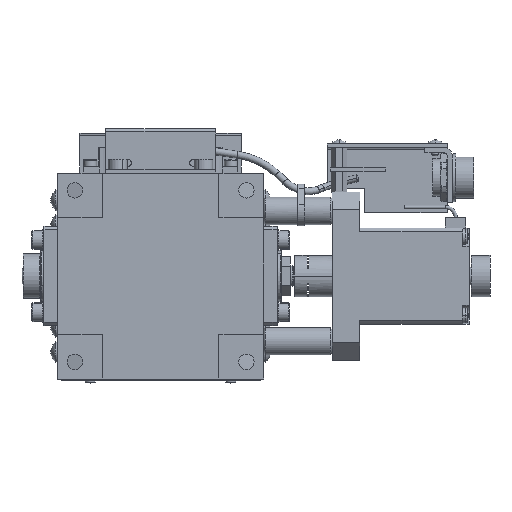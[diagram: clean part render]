
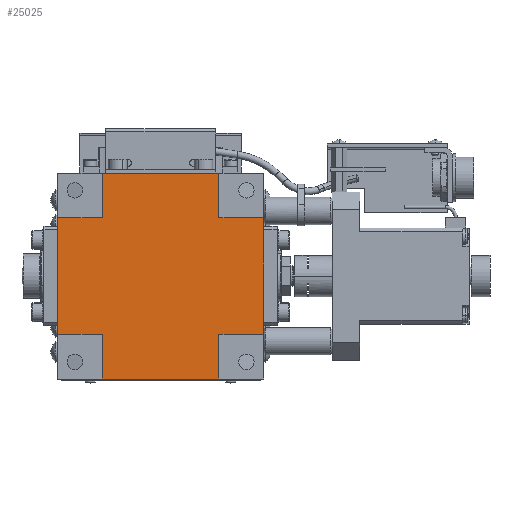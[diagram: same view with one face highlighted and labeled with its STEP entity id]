
A CAD part, front view. The second image highlights one B-rep face of the part: STEP entity #25025.
In plain terms, the highlighted planar face has unit normal (0, -1, 0).
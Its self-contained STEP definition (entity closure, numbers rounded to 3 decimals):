
#15 = CARTESIAN_POINT ( 'NONE',  ( 30., 0.3, 17. ) ) ;
#58 = CARTESIAN_POINT ( 'NONE',  ( 17., 0.3, -17. ) ) ;
#63 = VECTOR ( 'NONE', #11928, 1000. ) ;
#438 = EDGE_CURVE ( 'NONE', #7713, #6920, #25653, .T. ) ;
#512 = VECTOR ( 'NONE', #9439, 1000. ) ;
#995 = VERTEX_POINT ( 'NONE', #2869 ) ;
#998 = CARTESIAN_POINT ( 'NONE',  ( 0., 0.3, 0. ) ) ;
#2129 = CARTESIAN_POINT ( 'NONE',  ( -17., 0.3, -30. ) ) ;
#2375 = EDGE_CURVE ( 'NONE', #19317, #995, #28242, .T. ) ;
#2869 = CARTESIAN_POINT ( 'NONE',  ( -17., 0.3, -17. ) ) ;
#3951 = ORIENTED_EDGE ( 'NONE', *, *, #10830, .T. ) ;
#3966 = CARTESIAN_POINT ( 'NONE',  ( -30., 0.3, 17. ) ) ;
#4129 = VERTEX_POINT ( 'NONE', #24132 ) ;
#4837 = LINE ( 'NONE', #15, #23692 ) ;
#4991 = LINE ( 'NONE', #30852, #13057 ) ;
#5000 = DIRECTION ( 'NONE',  ( 1., 0., 0. ) ) ;
#6336 = VECTOR ( 'NONE', #30992, 1000. ) ;
#6420 = CARTESIAN_POINT ( 'NONE',  ( 17., 0.3, 17. ) ) ;
#6547 = LINE ( 'NONE', #22126, #31978 ) ;
#6920 = VERTEX_POINT ( 'NONE', #25712 ) ;
#7114 = LINE ( 'NONE', #15010, #512 ) ;
#7713 = VERTEX_POINT ( 'NONE', #2129 ) ;
#8034 = ORIENTED_EDGE ( 'NONE', *, *, #26712, .T. ) ;
#8180 = EDGE_CURVE ( 'NONE', #995, #7713, #10126, .T. ) ;
#8212 = VECTOR ( 'NONE', #20341, 1000. ) ;
#8270 = DIRECTION ( 'NONE',  ( -1., 0., 0. ) ) ;
#8461 = ORIENTED_EDGE ( 'NONE', *, *, #11944, .T. ) ;
#8736 = VERTEX_POINT ( 'NONE', #6420 ) ;
#9363 = ORIENTED_EDGE ( 'NONE', *, *, #12618, .T. ) ;
#9439 = DIRECTION ( 'NONE',  ( 0., 0., 1. ) ) ;
#9757 = VERTEX_POINT ( 'NONE', #16697 ) ;
#10126 = LINE ( 'NONE', #14293, #63 ) ;
#10284 = FACE_OUTER_BOUND ( 'NONE', #20922, .T. ) ;
#10303 = ORIENTED_EDGE ( 'NONE', *, *, #2375, .T. ) ;
#10682 = LINE ( 'NONE', #3966, #17986 ) ;
#10830 = EDGE_CURVE ( 'NONE', #30891, #13247, #4837, .T. ) ;
#11385 = ORIENTED_EDGE ( 'NONE', *, *, #438, .T. ) ;
#11680 = VECTOR ( 'NONE', #25644, 1000. ) ;
#11928 = DIRECTION ( 'NONE',  ( 0., 0., -1. ) ) ;
#11944 = EDGE_CURVE ( 'NONE', #9757, #19317, #10682, .T. ) ;
#12474 = VERTEX_POINT ( 'NONE', #31498 ) ;
#12618 = EDGE_CURVE ( 'NONE', #13247, #8736, #14449, .T. ) ;
#13057 = VECTOR ( 'NONE', #31281, 1000. ) ;
#13089 = DIRECTION ( 'NONE',  ( 0., 1., 0. ) ) ;
#13247 = VERTEX_POINT ( 'NONE', #29497 ) ;
#13300 = VECTOR ( 'NONE', #16831, 1000. ) ;
#13429 = CARTESIAN_POINT ( 'NONE',  ( -30., 0.3, -17. ) ) ;
#13536 = VERTEX_POINT ( 'NONE', #18488 ) ;
#14237 = EDGE_CURVE ( 'NONE', #8736, #24738, #7114, .T. ) ;
#14293 = CARTESIAN_POINT ( 'NONE',  ( -17., 0.3, -30. ) ) ;
#14367 = EDGE_CURVE ( 'NONE', #12474, #30891, #24041, .T. ) ;
#14449 = LINE ( 'NONE', #29311, #13300 ) ;
#15010 = CARTESIAN_POINT ( 'NONE',  ( 17., 0.3, 17. ) ) ;
#15143 = DIRECTION ( 'NONE',  ( 1., 0., 0. ) ) ;
#16697 = CARTESIAN_POINT ( 'NONE',  ( -30., 0.3, 17. ) ) ;
#16831 = DIRECTION ( 'NONE',  ( -1., 0., 0. ) ) ;
#17784 = EDGE_CURVE ( 'NONE', #4129, #13536, #4991, .T. ) ;
#17860 = AXIS2_PLACEMENT_3D ( 'NONE', #998, #13089, #8270 ) ;
#17986 = VECTOR ( 'NONE', #21183, 1000. ) ;
#18018 = EDGE_CURVE ( 'NONE', #24738, #4129, #6547, .T. ) ;
#18090 = CARTESIAN_POINT ( 'NONE',  ( -30., 0.3, 17. ) ) ;
#18488 = CARTESIAN_POINT ( 'NONE',  ( -17., 0.3, 17. ) ) ;
#19086 = VECTOR ( 'NONE', #5000, 1000. ) ;
#19317 = VERTEX_POINT ( 'NONE', #28154 ) ;
#20341 = DIRECTION ( 'NONE',  ( -1., 0., 0. ) ) ;
#20594 = CARTESIAN_POINT ( 'NONE',  ( 30., 0.3, -17. ) ) ;
#20922 = EDGE_LOOP ( 'NONE', ( #30246, #3951, #9363, #22460, #28879, #25071, #26429, #8461, #10303, #25181, #11385, #8034 ) ) ;
#21183 = DIRECTION ( 'NONE',  ( 0., 0., -1. ) ) ;
#21383 = EDGE_CURVE ( 'NONE', #13536, #9757, #23235, .T. ) ;
#21713 = VECTOR ( 'NONE', #15143, 1000. ) ;
#21851 = CARTESIAN_POINT ( 'NONE',  ( 17., 0.3, 30. ) ) ;
#22126 = CARTESIAN_POINT ( 'NONE',  ( -17., 0.3, 30. ) ) ;
#22460 = ORIENTED_EDGE ( 'NONE', *, *, #14237, .T. ) ;
#23137 = PLANE ( 'NONE',  #17860 ) ;
#23235 = LINE ( 'NONE', #18090, #8212 ) ;
#23692 = VECTOR ( 'NONE', #31621, 1000. ) ;
#24041 = LINE ( 'NONE', #58, #21713 ) ;
#24132 = CARTESIAN_POINT ( 'NONE',  ( -17., 0.3, 30. ) ) ;
#24738 = VERTEX_POINT ( 'NONE', #21851 ) ;
#25025 = ADVANCED_FACE ( 'NONE', ( #10284 ), #23137, .F. ) ;
#25071 = ORIENTED_EDGE ( 'NONE', *, *, #17784, .T. ) ;
#25181 = ORIENTED_EDGE ( 'NONE', *, *, #8180, .T. ) ;
#25644 = DIRECTION ( 'NONE',  ( 1., 0., 0. ) ) ;
#25653 = LINE ( 'NONE', #31934, #19086 ) ;
#25712 = CARTESIAN_POINT ( 'NONE',  ( 17., 0.3, -30. ) ) ;
#26429 = ORIENTED_EDGE ( 'NONE', *, *, #21383, .T. ) ;
#26712 = EDGE_CURVE ( 'NONE', #6920, #12474, #29427, .T. ) ;
#26954 = DIRECTION ( 'NONE',  ( -1., 0., 0. ) ) ;
#28154 = CARTESIAN_POINT ( 'NONE',  ( -30., 0.3, -17. ) ) ;
#28242 = LINE ( 'NONE', #13429, #11680 ) ;
#28489 = CARTESIAN_POINT ( 'NONE',  ( 17., 0.3, -30. ) ) ;
#28879 = ORIENTED_EDGE ( 'NONE', *, *, #18018, .T. ) ;
#29311 = CARTESIAN_POINT ( 'NONE',  ( 17., 0.3, 17. ) ) ;
#29427 = LINE ( 'NONE', #28489, #6336 ) ;
#29497 = CARTESIAN_POINT ( 'NONE',  ( 30., 0.3, 17. ) ) ;
#30246 = ORIENTED_EDGE ( 'NONE', *, *, #14367, .T. ) ;
#30852 = CARTESIAN_POINT ( 'NONE',  ( -17., 0.3, 17. ) ) ;
#30891 = VERTEX_POINT ( 'NONE', #20594 ) ;
#30992 = DIRECTION ( 'NONE',  ( 0., 0., 1. ) ) ;
#31281 = DIRECTION ( 'NONE',  ( 0., 0., -1. ) ) ;
#31498 = CARTESIAN_POINT ( 'NONE',  ( 17., 0.3, -17. ) ) ;
#31621 = DIRECTION ( 'NONE',  ( 0., 0., 1. ) ) ;
#31934 = CARTESIAN_POINT ( 'NONE',  ( -17., 0.3, -30. ) ) ;
#31978 = VECTOR ( 'NONE', #26954, 1000. ) ;
